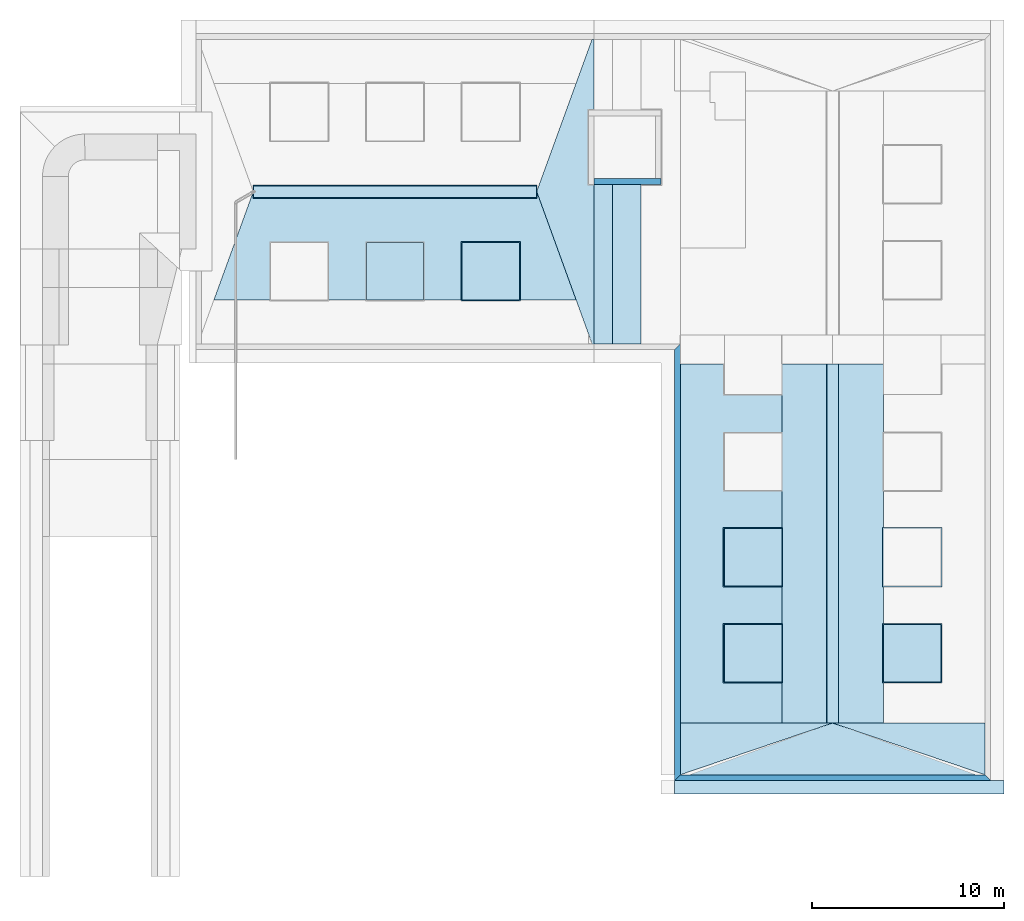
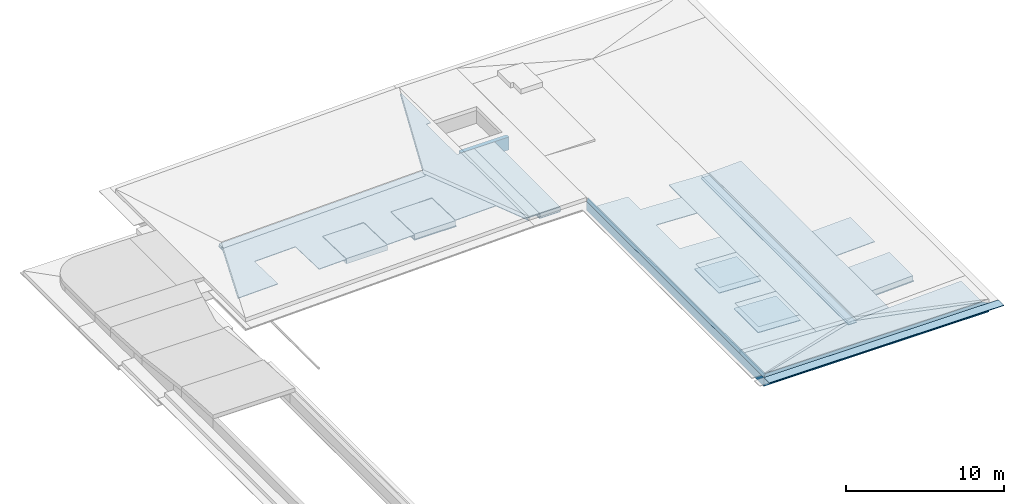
# One storey, part 2 of 8: 29 footings.
"""IFC4 building model written with IfcOpenShell, lengths in millimetres."""

from ifc_helpers import new_model, entity, si_unit, converted_unit, derived_unit, direction, frame, origin_with_axes, place, context, subcontext, project, spatial, polygons, material, type_object, element, save


model = new_model("IFC4")

# Units and contexts
model_context = context("Model", 3, precision=0.01, world=origin_with_axes(), true_north=direction((0.0, 1.0)))
body_context = subcontext(model_context, "Body", "Model", "MODEL_VIEW")
ifc_project = project(units=[si_unit("LENGTHUNIT", "METRE", prefix="MILLI"), si_unit("AREAUNIT", "SQUARE_METRE"), si_unit("VOLUMEUNIT", "CUBIC_METRE"), converted_unit("PLANEANGLEUNIT", "DEGREE", entity("IfcPlaneAngleMeasure", 0.0174532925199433), si_unit("PLANEANGLEUNIT", "RADIAN"), dimensions=[0, 0, 0, 0, 0, 0, 0]), converted_unit("TIMEUNIT", "Year", entity("IfcTimeMeasure", 31557600.0), si_unit("TIMEUNIT", "SECOND"), dimensions=[0, 0, 1, 0, 0, 0, 0]), si_unit("MASSUNIT", "GRAM", prefix="KILO"), si_unit("THERMODYNAMICTEMPERATUREUNIT", "DEGREE_CELSIUS"), si_unit("LUMINOUSINTENSITYUNIT", "LUMEN"), si_unit("ENERGYUNIT", "JOULE", prefix="MEGA"), derived_unit("THERMALCONDUCTANCEUNIT", [(si_unit("POWERUNIT", "WATT"), 1), (si_unit("LENGTHUNIT", "METRE"), -1), (si_unit("THERMODYNAMICTEMPERATUREUNIT", "KELVIN"), -1)]), derived_unit("SPECIFICHEATCAPACITYUNIT", [(si_unit("ENERGYUNIT", "JOULE"), 1), (si_unit("MASSUNIT", "GRAM", prefix="KILO"), -1), (si_unit("THERMODYNAMICTEMPERATUREUNIT", "KELVIN"), -1)]), derived_unit("MASSDENSITYUNIT", [(si_unit("MASSUNIT", "GRAM", prefix="KILO"), 1), (si_unit("VOLUMEUNIT", "CUBIC_METRE"), -1)])], contexts=[model_context])

# Site, building, storey
site_placement = place(None, origin_with_axes())
site = spatial("IfcSite", under=ifc_project, at=site_placement, Name="Gelände", CompositionType="ELEMENT")
building_placement = place(site_placement, origin_with_axes())
building = spatial("IfcBuilding", under=site, at=building_placement, Name="Gebäude", CompositionType="ELEMENT")
storey_placement = place(building_placement, frame((0.0, 0.0, -6000.0), z_axis=(0.0, 0.0, 1.0), x_axis=(1.0, 0.0, 0.0)))
storey = spatial("IfcBuildingStorey", under=building, at=storey_placement, Name="Fundation", CompositionType="ELEMENT", Elevation=-6000.0)

# Footings
ifc_material_1 = material(Name="Magerbeton")
footing_type_1 = type_object("IfcFootingType", Name="Magerbeton 50", PredefinedType="NOTDEFINED")
footing_1_placement = place(storey_placement, frame((14921.30440183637, 25536.3528107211, 2349.956716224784), z_axis=(0.0, 0.0, 1.0), x_axis=(0.7208330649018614, 0.6931087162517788, 0.0)))
element("IfcFooting", 1, at=footing_1_placement, inside=storey, type_object=footing_type_1, material=ifc_material_1, Name="Dach-008", PredefinedType="NOTDEFINED", context=body_context, shape_type="Tessellation", body=[
    polygons([(-16255.46413902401, 15630.25389093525, -600.4645993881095), (-14122.7827600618, 13579.59871885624, -515.1193859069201), (-12044.3503997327, 15741.16837359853, -605.0806949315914), (-9881.851126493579, 13661.84214933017, -518.542234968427), (-11960.28348682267, 11500.27249458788, -428.5809259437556), (-10518.61730466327, 10114.05501174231, -370.8886193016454), (-8440.234375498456, 12275.57325807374, -460.8477887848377), (-6277.735305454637, 10196.24722918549, -374.3093369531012), (-8356.11823461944, 8034.728982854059, -284.3501674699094), (-6914.452052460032, 6648.511500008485, -226.6578608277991), (-4827.779145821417, 8818.65132291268, -316.9758474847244), (-2665.2798725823, 6739.325098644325, -230.43738752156), (-4751.952779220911, 4569.185275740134, -140.1194008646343), (-2619.271400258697, 2518.530103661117, -54.77418738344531), (-179.3452857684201, 8026.199875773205, -283.995198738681), (-387.2779668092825, 7809.949887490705, -274.9951963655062), (-11055.60726775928, 18067.9588307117, -701.9182476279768), (-10847.67458671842, 18284.2088189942, -710.9182500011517), (-16255.46413941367, 15630.25389085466, -650.5078829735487), (-14122.78276031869, 13579.59871918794, -565.1626695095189), (-12044.35039965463, 15741.16837327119, -655.1239785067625), (-9881.851126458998, 13661.84214937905, -568.5855185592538), (-11960.28348712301, 11500.27249436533, -478.6242095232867), (-10518.61730499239, 10114.05501177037, -420.9319028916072), (-8440.234375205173, 12275.57325850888, -510.8910723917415), (-6277.735305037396, 10196.24722909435, -424.3526205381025), (-8356.11823482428, 8034.728983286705, -334.3934510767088), (-6914.452052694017, 6648.511499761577, -276.7011444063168), (-4827.779145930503, 8818.651322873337, -367.0191310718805), (-2665.27987273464, 6739.325098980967, -280.4806711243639), (-4751.952779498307, 4569.185275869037, -190.1626844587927), (-2619.271400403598, 2518.530103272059, -104.8174709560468), (-179.3452855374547, 8026.199876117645, -334.0384823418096), (-387.2779663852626, 7809.949887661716, -325.038479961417), (-11055.60726767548, 18067.95883026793, -751.9615311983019), (-10847.67458683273, 18284.20881871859, -760.9615335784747)], [[[1, 2, 3, 4, 5, 6, 7, 8, 9, 10, 11, 12, 13, 14, 15, 16, 17, 18]], [[2, 1, 19, 20]], [[3, 2, 20, 21]], [[4, 3, 21, 22]], [[5, 4, 22, 23]], [[6, 5, 23, 24]], [[7, 6, 24, 25]], [[8, 7, 25, 26]], [[9, 8, 26, 27]], [[10, 9, 27, 28]], [[11, 10, 28, 29]], [[12, 11, 29, 30]], [[13, 12, 30, 31]], [[14, 13, 31, 32]], [[15, 14, 32, 33]], [[16, 15, 33, 34]], [[17, 16, 34, 35]], [[18, 17, 35, 36]], [[1, 18, 36, 19]], [[20, 19, 36, 35, 34, 33, 32, 31, 30, 29, 28, 27, 26, 25, 24, 23, 22, 21]]], closed=True),
])
footing_2_placement = place(storey_placement, frame((12228.99744477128, 39147.59725747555, 2349.691005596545), z_axis=(0.0, 0.0, 1.0), x_axis=(0.0, -1.0, 0.0)))
element("IfcFooting", 2, at=footing_2_placement, inside=storey, type_object=footing_type_1, material=ifc_material_1, Name="Dach-009", PredefinedType="NOTDEFINED", context=body_context, shape_type="Tessellation", body=[
    polygons([(16200.0001721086, 0.0001391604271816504, 50.30900989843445), (7574.999976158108, 0.0001391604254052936, 50.30900989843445), (7574.999976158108, -299.9999999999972, 16.90514666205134), (3699.999976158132, -299.9999999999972, 16.90514666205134), (3699.999976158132, 0.0001391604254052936, 50.30900989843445), (0.0, 0.0001391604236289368, 50.30900989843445), (0.0, -109.0909856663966, 38.16213215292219), (7950.000030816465, -3000.000000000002, -283.7294830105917), (16200.00017249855, 0.000139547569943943, 1.572550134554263e-05), (7574.999975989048, 0.000139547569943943, 1.572550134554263e-05), (7574.999975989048, -299.9999997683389, -33.40384752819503), (3699.999975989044, -299.9999997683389, -33.40384752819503), (3699.999975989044, 0.000139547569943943, 1.572550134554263e-05), (1.716671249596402e-08, 0.000139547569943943, 1.572550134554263e-05), (1.716671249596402e-08, -109.0909853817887, -12.14686203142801), (7950.000030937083, -3000.000000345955, -334.0384772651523)], [[[1, 2, 3, 4, 5, 6, 7, 8]], [[2, 1, 9, 10]], [[3, 2, 10, 11]], [[4, 3, 11, 12]], [[5, 4, 12, 13]], [[6, 5, 13, 14]], [[7, 6, 14, 15]], [[8, 7, 15, 16]], [[1, 8, 16, 9]], [[10, 9, 16, 15, 14, 13, 12, 11]]], closed=True),
])
footing_3_placement = place(storey_placement, frame((24662.95106161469, 22197.59728131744, 2019.078256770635), z_axis=(0.0, 0.0, 1.0), x_axis=(0.0, 1.0, 0.0)))
element("IfcFooting", 3, at=footing_3_placement, inside=storey, type_object=footing_type_1, material=ifc_material_1, Name="Dach-009", PredefinedType="NOTDEFINED", context=body_context, shape_type="Tessellation", body=[
    polygons([(0.0, -316.0479770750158, 62.68190309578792), (-18750.00000000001, -316.0479770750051, 62.68190309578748), (-18750.00000000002, -2667.193634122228, 156.7277293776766), (0.0, -2667.193702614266, 156.7277321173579), (-3.895337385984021e-07, -316.047976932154, 12.64191926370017), (-18750.00000038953, -316.047976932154, 12.64191926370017), (-18750.00000038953, -2667.193634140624, 106.6877455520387), (-3.895337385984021e-07, -2667.193703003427, 106.6877483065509)], [[[1, 2, 3, 4]], [[2, 1, 5, 6]], [[3, 2, 6, 7]], [[4, 3, 7, 8]], [[1, 4, 8, 5]], [[6, 5, 8, 7]]], closed=True),
])
footing_4_placement = place(storey_placement, frame((24678.99903868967, 20076.41671686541, 2019.720048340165), z_axis=(0.0, 0.0, 1.0), x_axis=(0.0, -1.0, 0.0)))
element("IfcFooting", 4, at=footing_4_placement, inside=storey, type_object=footing_type_1, material=ifc_material_1, Name="Dach-009", PredefinedType="NOTDEFINED", context=body_context, shape_type="Tessellation", body=[
    polygons([(-2121.180564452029, -2651.197942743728, 156.0879017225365), (11478.8195473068, -2651.197942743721, 156.0879017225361), (11478.8195473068, -2653.196344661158, 156.1678377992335), (14478.8195473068, -2653.196344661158, 156.1678377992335), (14478.8195473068, -2651.197942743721, 156.0879017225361), (16628.81943554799, -2651.197942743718, 156.0879017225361), (16628.81943554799, -299.9999999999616, 62.03998401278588), (-2121.180564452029, -299.9999999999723, 62.03998401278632), (-2121.180564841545, -2651.197942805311, 106.0479178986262), (11478.81954747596, -2651.197942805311, 106.0479178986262), (11478.81954747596, -2653.196345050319, 106.1278539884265), (14478.81954747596, -2653.196345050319, 106.1278539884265), (14478.81954747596, -2651.197942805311, 106.0479178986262), (16628.81943515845, -2651.197942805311, 106.0479178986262), (16628.81943515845, -300.0000001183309, 12.00000019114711), (-2121.180564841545, -300.0000001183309, 12.00000019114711)], [[[1, 2, 3, 4, 5, 6, 7, 8]], [[2, 1, 9, 10]], [[3, 2, 10, 11]], [[4, 3, 11, 12]], [[5, 4, 12, 13]], [[6, 5, 13, 14]], [[7, 6, 14, 15]], [[8, 7, 15, 16]], [[1, 8, 16, 9]], [[10, 9, 16, 15, 14, 13, 12, 11]]], closed=True),
])
footing_5_placement = place(storey_placement, frame((32928.9974447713, 447.5972813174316, 2370.414046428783), z_axis=(0.0, 0.0, 1.0), x_axis=(-1.0, 0.0, 0.0)))
element("IfcFooting", 5, at=footing_5_placement, inside=storey, type_object=footing_type_1, material=ifc_material_1, Name="Dach-009", PredefinedType="NOTDEFINED", context=body_context, shape_type="Tessellation", body=[
    polygons([(8250.000000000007, -2999.999999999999, -300.6540140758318), (16200.00068824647, -299.9999999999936, 15.24154558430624), (300.1233427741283, -300.0000000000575, 15.24154558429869), (8250.00000020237, -3000.000000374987, -350.99506614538), (16200.00068863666, -299.999999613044, -35.09950639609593), (300.1233425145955, -299.9999996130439, -35.09950639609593)], [[[1, 2, 3]], [[2, 1, 4, 5]], [[3, 2, 5, 6]], [[1, 3, 6, 4]], [[5, 4, 6]]], closed=True),
])
footing_6_placement = place(storey_placement, frame((24678.99744477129, 447.5972813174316, 2019.720048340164), z_axis=(0.0, 0.0, 1.0), x_axis=(0.0, 1.0, 0.0)))
element("IfcFooting", 6, at=footing_6_placement, inside=storey, type_object=footing_type_1, material=ifc_material_1, Name="Dach-009", PredefinedType="NOTDEFINED", context=body_context, shape_type="Tessellation", body=[
    polygons([(299.9581633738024, -7949.999840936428, 368.0399776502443), (2999.999999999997, -7950.123185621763, 368.0449114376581), (3000.0, 0.0, 50.03998401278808), (299.9581629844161, -7949.999840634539, 317.999993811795), (3000.000000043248, -7950.123186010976, 318.0049276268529), (3000.000000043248, -1.21666232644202e-07, 1.912803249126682e-07)], [[[1, 2, 3]], [[2, 1, 4, 5]], [[3, 2, 5, 6]], [[1, 3, 6, 4]], [[5, 4, 6]]], closed=True),
])
footing_7_placement = place(storey_placement, frame((5278.997492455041, 25486.5315427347, 1716.595820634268), z_axis=(0.0, 0.0, 1.0), x_axis=(1.0, 0.0, 0.0)))
element("IfcFooting", 7, at=footing_7_placement, inside=storey, type_object=footing_type_1, material=ifc_material_1, Name="Dach-009", PredefinedType="NOTDEFINED", context=body_context, shape_type="Tessellation", body=[
    polygons([(0.0, 3097.52429106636, -40.8622058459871), (0.0, 0.0, 50.02151737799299), (3100.000000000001, 0.0, 50.02151737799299), (3100.000000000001, 3097.52429106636, -40.8622058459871), (-3.895159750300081e-07, 3097.524290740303, -90.88372302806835), (-3.895159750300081e-07, -3.894200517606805e-07, 1.977706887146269e-07), (3100.000000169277, -3.894200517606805e-07, 1.977706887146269e-07), (3100.000000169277, 3097.524290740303, -90.88372302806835)], [[[1, 2, 3, 4]], [[2, 1, 5, 6]], [[3, 2, 6, 7]], [[4, 3, 7, 8]], [[1, 4, 8, 5]], [[6, 5, 8, 7]]], closed=True),
])
footing_8_placement = place(storey_placement, frame((18964.23958879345, 13647.5972813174, 1872.231201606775), z_axis=(0.0, 0.0, 1.0), x_axis=(0.0, -1.0, 0.0)))
element("IfcFooting", 8, at=footing_8_placement, inside=storey, type_object=footing_type_1, material=ifc_material_1, Name="Dach-009", PredefinedType="NOTDEFINED", context=body_context, shape_type="Tessellation", body=[
    polygons([(0.0, 3107.516304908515, -74.22755005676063), (0.0, 0.0, 50.03996270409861), (3100.0, 0.0, 50.03996270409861), (3100.0, 3107.516304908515, -74.22755005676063), (-3.895159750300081e-07, 3107.516304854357, -124.2675125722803), (-3.895159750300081e-07, -3.891571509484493e-07, 2.01976213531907e-07), (3100.000000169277, -3.891571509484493e-07, 2.01976213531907e-07), (3100.000000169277, 3107.516304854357, -124.2675125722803)], [[[1, 2, 3, 4]], [[2, 1, 5, 6]], [[3, 2, 6, 7]], [[4, 3, 7, 8]], [[1, 4, 8, 5]], [[6, 5, 8, 7]]], closed=True),
])
footing_9_placement = place(storey_placement, frame((18964.11839653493, 8647.597281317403, 1847.61895301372), z_axis=(0.0, 0.0, 1.0), x_axis=(0.0, -1.0, 0.0)))
element("IfcFooting", 9, at=footing_9_placement, inside=storey, type_object=footing_type_1, material=ifc_material_1, Name="Dach-009", PredefinedType="NOTDEFINED", context=body_context, shape_type="Tessellation", body=[
    polygons([(0.0, 3107.516304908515, -74.22755005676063), (0.0, 0.0, 50.03996270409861), (3100.0, 0.0, 50.03996270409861), (3100.0, 3107.516304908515, -74.22755005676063), (-3.895159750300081e-07, 3107.516304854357, -124.2675125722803), (-3.895159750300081e-07, -3.891607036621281e-07, 2.019753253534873e-07), (3100.000000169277, -3.891607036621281e-07, 2.019753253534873e-07), (3100.000000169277, 3107.516304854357, -124.2675125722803)], [[[1, 2, 3, 4]], [[2, 1, 5, 6]], [[3, 2, 6, 7]], [[4, 3, 7, 8]], [[1, 4, 8, 5]], [[6, 5, 8, 7]]], closed=True),
])
footing_10_placement = place(storey_placement, frame((30393.87967575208, 5547.597281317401, 1847.619080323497), z_axis=(0.0, 0.0, 1.0), x_axis=(0.0, 1.0, 0.0)))
element("IfcFooting", 10, at=footing_10_placement, inside=storey, type_object=footing_type_1, material=ifc_material_1, Name="Dach-009", PredefinedType="NOTDEFINED", context=body_context, shape_type="Tessellation", body=[
    polygons([(0.0, 0.0, 50.03996270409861), (3099.999999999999, 0.0, 50.03996270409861), (3099.999999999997, 3097.524291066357, -73.82797606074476), (0.0, 3097.52429106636, -73.82797606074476), (-3.895168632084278e-07, -3.891642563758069e-07, 2.01976213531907e-07), (3100.000000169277, -3.891642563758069e-07, 2.01976213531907e-07), (3100.000000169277, 3097.524291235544, -123.867938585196), (-3.895168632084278e-07, 3097.524291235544, -123.867938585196)], [[[1, 2, 3, 4]], [[2, 1, 5, 6]], [[3, 2, 6, 7]], [[4, 3, 7, 8]], [[1, 4, 8, 5]], [[6, 5, 8, 7]]], closed=True),
])
footing_11_placement = place(storey_placement, frame((30393.75530074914, 10547.5972813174, 1872.231201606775), z_axis=(0.0, 0.0, 1.0), x_axis=(0.0, 1.0, 0.0)))
element("IfcFooting", 11, at=footing_11_placement, inside=storey, type_object=footing_type_1, material=ifc_material_1, Name="Dach-009", PredefinedType="NOTDEFINED", context=body_context, shape_type="Tessellation", body=[
    polygons([(0.0, 0.0, 50.03996270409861), (3099.999999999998, 0.0, 50.03996270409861), (3099.999999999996, 3097.524291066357, -73.82797606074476), (0.0, 3097.524291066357, -73.82797606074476), (-3.895159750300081e-07, -3.891642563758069e-07, 2.019753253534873e-07), (3100.000000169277, -3.891642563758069e-07, 2.019753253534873e-07), (3100.000000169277, 3097.524291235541, -123.867938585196), (-3.895159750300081e-07, 3097.524291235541, -123.867938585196)], [[[1, 2, 3, 4]], [[2, 1, 5, 6]], [[3, 2, 6, 7]], [[4, 3, 7, 8]], [[1, 4, 8, 5]], [[6, 5, 8, 7]]], closed=True),
])
footing_12_placement = place(storey_placement, frame((24368.9990386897, 3447.597281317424, 1830.452000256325), z_axis=(0.0, 0.0, 1.0), x_axis=(1.0, 0.0, 0.0)))
element("IfcFooting", 12, at=footing_12_placement, inside=storey, type_object=footing_type_1, material=ifc_material_1, Name="Deckennr.-074", PredefinedType="NOTDEFINED", context=body_context, shape_type="Tessellation", body=[
    polygons([(619.9999999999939, 0.0, 49.99999999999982), (0.0, 0.0, 49.99999999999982), (0.0, 0.0, 0.0), (619.9999999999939, 0.0, 0.0), (619.9999999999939, 18750.00000000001, 49.99999999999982), (0.0, 18750.00000000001, 49.99999999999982), (0.0, 18750.00000000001, 0.0), (619.9999999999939, 18750.00000000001, 0.0)], [[[1, 2, 3, 4]], [[5, 6, 2, 1]], [[2, 6, 7, 3]], [[8, 4, 3, 7]], [[5, 1, 4, 8]], [[6, 5, 8, 7]]], closed=True),
])
footing_13_placement = place(storey_placement, frame((-5584.058279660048, 31547.59725747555, 1388.447285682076), z_axis=(0.0, 0.0, 1.0), x_axis=(0.0, -1.0, 0.0)))
element("IfcFooting", 13, at=footing_13_placement, inside=storey, type_object=footing_type_1, material=ifc_material_1, Name="Dach-009", PredefinedType="NOTDEFINED", context=body_context, shape_type="Tessellation", body=[
    polygons([(700.0000000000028, 14820.25936470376, 477.4997178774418), (0.0, 14820.25936470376, 477.4997178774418), (0.0, 0.0, 50.02079541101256), (700.0000000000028, 0.0, 50.02079541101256), (700.0000003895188, 14820.25936509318, 427.4789226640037), (2.032543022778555e-07, 14820.25936509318, 427.4789226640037), (2.032543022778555e-07, 3.45536044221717e-07, 1.963087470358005e-07), (700.0000003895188, 3.45536044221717e-07, 1.963087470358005e-07)], [[[1, 2, 3, 4]], [[2, 1, 5, 6]], [[3, 2, 6, 7]], [[4, 3, 7, 8]], [[1, 4, 8, 5]], [[6, 5, 8, 7]]], closed=True),
])
footing_14_placement = place(storey_placement, frame((13178.99744477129, 23247.5973051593, 2000.0), z_axis=(0.0, 0.0, 1.0), x_axis=(1.0, 0.0, 0.0)))
element("IfcFooting", 14, at=footing_14_placement, inside=storey, type_object=footing_type_1, material=ifc_material_1, Name="Deckennr.-073", PredefinedType="NOTDEFINED", context=body_context, shape_type="Tessellation", body=[
    polygons([(1499.999999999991, 0.0, 49.99999999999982), (0.0, 0.0, 49.99999999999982), (0.0, 0.0, 0.0), (1499.999999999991, 0.0, 0.0), (1499.999999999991, 8324.999976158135, 49.99999999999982), (0.0, 8324.999976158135, 49.99999999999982), (0.0, 8324.999976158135, 0.0), (1499.999999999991, 8324.999976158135, 0.0)], [[[1, 2, 3, 4]], [[5, 6, 2, 1]], [[2, 6, 7, 3]], [[8, 4, 3, 7]], [[5, 1, 4, 8]], [[6, 5, 8, 7]]], closed=True),
])
footing_15_placement = place(storey_placement, frame((24678.9467959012, 36447.59728131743, 2019.718086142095), z_axis=(0.0, 0.0, 1.0), x_axis=(0.0, -1.0, 0.0)))
element("IfcFooting", 15, at=footing_15_placement, inside=storey, type_object=footing_type_1, material=ifc_material_1, Name="Dach-009", PredefinedType="NOTDEFINED", context=body_context, shape_type="Tessellation", body=[
    polygons([(14249.99999999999, -7949.999999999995, 368.0399840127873), (33000.00000000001, -7949.999999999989, 368.0399840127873), (33000.0, -2651.147250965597, 156.0858740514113), (30850.00011175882, -2651.147250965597, 156.0858740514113), (30850.00011175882, -5648.751403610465, 275.9900401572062), (27850.00011175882, -5648.751403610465, 275.9900401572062), (27850.00011175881, -2651.14569995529, 156.0858120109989), (25850.00011175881, -2651.145699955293, 156.0858120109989), (25850.00011175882, -5648.802052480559, 275.9920661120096), (22850.00011175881, -5648.802052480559, 275.9920661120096), (22850.00011175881, -2651.14569995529, 156.0858120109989), (20850.00011175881, -2651.14569995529, 156.0858120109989), (20850.00011175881, -5648.802052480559, 275.9920661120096), (17850.00011175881, -5648.802052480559, 275.9920661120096), (17850.0001117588, -2651.145699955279, 156.0858120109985), (15850.00011175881, -2651.145699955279, 156.0858120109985), (15850.00011175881, -5648.802052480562, 275.9920661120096), (14249.99999999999, -5648.802052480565, 275.9920661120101), (14249.99999961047, -7950.000000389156, 318.0000002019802), (32999.99999961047, -7950.000000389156, 318.0000002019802), (32999.99999961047, -2651.147250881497, 106.0458902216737), (30850.00011192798, -2651.147250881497, 106.0458902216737), (30850.00011192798, -5648.751403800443, 225.9500563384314), (27850.00011192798, -5648.751403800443, 225.9500563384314), (27850.00011192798, -2651.145699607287, 106.0458281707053), (25850.00011192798, -2651.145699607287, 106.0458281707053), (25850.00011192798, -5648.802052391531, 225.9520822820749), (22850.00011192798, -5648.802052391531, 225.9520822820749), (22850.00011192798, -2651.145699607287, 106.0458281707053), (20850.00011192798, -2651.145699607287, 106.0458281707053), (20850.00011192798, -5648.802052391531, 225.9520822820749), (17850.00011192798, -5648.802052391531, 225.9520822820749), (17850.00011192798, -2651.145699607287, 106.0458281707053), (15850.00011192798, -2651.145699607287, 106.0458281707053), (15850.00011192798, -5648.802052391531, 225.9520822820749), (14249.99999961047, -5648.802052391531, 225.9520822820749)], [[[1, 2, 3, 4, 5, 6, 7, 8, 9, 10, 11, 12, 13, 14, 15, 16, 17, 18]], [[2, 1, 19, 20]], [[3, 2, 20, 21]], [[4, 3, 21, 22]], [[5, 4, 22, 23]], [[6, 5, 23, 24]], [[7, 6, 24, 25]], [[8, 7, 25, 26]], [[9, 8, 26, 27]], [[10, 9, 27, 28]], [[11, 10, 28, 29]], [[12, 11, 29, 30]], [[13, 12, 30, 31]], [[14, 13, 31, 32]], [[15, 14, 32, 33]], [[16, 15, 33, 34]], [[17, 16, 34, 35]], [[18, 17, 35, 36]], [[1, 18, 36, 19]], [[20, 19, 36, 35, 34, 33, 32, 31, 30, 29, 28, 27, 26, 25, 24, 23, 22, 21]]], closed=True),
])
footing_16_placement = place(storey_placement, frame((24678.9974447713, 3447.597281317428, 2019.720048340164), z_axis=(0.0, 0.0, 1.0), x_axis=(0.0, -1.0, 0.0)))
element("IfcFooting", 16, at=footing_16_placement, inside=storey, type_object=footing_type_1, material=ifc_material_1, Name="Dach-009", PredefinedType="NOTDEFINED", context=body_context, shape_type="Tessellation", body=[
    polygons([(2700.039141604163, -7949.991905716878, 368.0396602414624), (0.0, 0.0, 50.03998401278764), (0.0, -7950.115250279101, 368.0445940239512), (2700.039141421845, -7949.99190529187, 317.9996763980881), (-3.895199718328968e-07, 1.790922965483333e-07, 1.792495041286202e-07), (-3.895195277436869e-07, -7950.115250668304, 318.0046102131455)], [[[1, 2, 3]], [[2, 1, 4, 5]], [[3, 2, 5, 6]], [[1, 3, 6, 4]], [[5, 4, 6]]], closed=True),
])
footing_type_2 = type_object("IfcFootingType", Name="Magerbeton 50", PredefinedType="NOTDEFINED")
footing_17_placement = place(storey_placement, frame((16428.99744477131, -252.4045176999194, 2400.0), z_axis=(0.0, 0.0, 1.0), x_axis=(1.0, 0.0, 0.0)))
element("IfcFooting", 17, at=footing_17_placement, inside=storey, type_object=footing_type_2, material=ifc_material_1, Name="Deckennr.-072", PredefinedType="NOTDEFINED", context=body_context, shape_type="Tessellation", body=[
    polygons([(17199.90052589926, 0.0, 0.0), (0.0, 0.0, 0.0), (0.0, 0.0, -49.99999999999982), (17199.90052589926, 0.0, -49.99999999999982), (17199.90052589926, 700.0, 0.0), (0.0, 700.0, 0.0), (0.0, 700.0, -49.99999999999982), (17199.90052589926, 700.0, -49.99999999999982)], [[[1, 2, 3, 4]], [[5, 6, 2, 1]], [[2, 6, 7, 3]], [[8, 4, 3, 7]], [[5, 1, 4, 8]], [[6, 5, 8, 7]]], closed=True),
])
footing_18_placement = place(storey_placement, frame((13178.99738852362, 31572.59728131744, 2400.0), z_axis=(0.0, 0.0, 1.0), x_axis=(1.0, 0.0, 0.0)))
element("IfcFooting", 18, at=footing_18_placement, inside=storey, type_object=footing_type_2, material=ifc_material_1, Name="Deckennr.-071", PredefinedType="NOTDEFINED", context=body_context, shape_type="Tessellation", body=[
    polygons([(0.0, 0.0, 0.0), (0.0, 0.0, -49.99999999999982), (-949.9999437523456, 0.0, -49.99999999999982), (-949.9999437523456, 0.0, 0.0), (0.0, -8324.999976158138, 0.0), (0.0, -8324.999976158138, -49.99999999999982), (-949.9999437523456, -8324.999976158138, -49.99999999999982), (-949.9999437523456, -8324.999976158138, 0.0)], [[[1, 2, 3, 4]], [[5, 6, 2, 1]], [[3, 2, 6, 7]], [[4, 3, 7, 8]], [[5, 1, 4, 8]], [[8, 7, 6, 5]]], closed=True),
])
ifc_material_2 = material(Name="Beton bewehrt")
footing_type_3 = type_object("IfcFootingType", Name="Beton bewehrt 300 x 700", PredefinedType="NOTDEFINED")
footing_19_placement = place(storey_placement, frame((16428.9974447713, 22947.5973051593, 2399.999999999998), z_axis=(0.0, 0.0, 1.0), x_axis=(-1.0, 0.0, 0.0)))
element("IfcFooting", 19, at=footing_19_placement, inside=storey, type_object=footing_type_3, material=ifc_material_2, Name="Unterzug-026", PredefinedType="NOTDEFINED", context=body_context, shape_type="Tessellation", body=[
    polygons([(-300.0000000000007, -299.9999999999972, -699.9999999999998), (-300.0000000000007, 22200.00002384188, -699.9999999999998), (0.0, 22500.00002384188, -699.9999999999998), (0.0, 0.0, -699.9999999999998), (-300.0000000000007, -299.9999999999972, 0.0), (-300.0000000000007, 22200.00002384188, 0.0), (0.0, 22500.00002384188, 0.0), (0.0, 0.0, 0.0)], [[[1, 2, 3, 4]], [[5, 6, 2, 1]], [[3, 2, 6, 7]], [[4, 3, 7, 8]], [[5, 1, 4, 8]], [[8, 7, 6, 5]]], closed=True),
])
footing_20_placement = place(storey_placement, frame((32928.99744477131, 447.5972813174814, 2399.999999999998), z_axis=(0.0, 0.0, 1.0), x_axis=(0.0, 1.0, 0.0)))
element("IfcFooting", 20, at=footing_20_placement, inside=storey, type_object=footing_type_3, material=ifc_material_2, Name="Unterzug-026", PredefinedType="NOTDEFINED", context=body_context, shape_type="Tessellation", body=[
    polygons([(299.9999999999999, 299.9999999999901, 0.0), (300.0, 16200.0, 0.0), (0.0, 16500.00000000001, 0.0), (0.0, 0.0, 0.0), (299.9999999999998, 299.9999999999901, -700.0000000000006), (299.9999999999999, 16200.0, -700.0000000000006), (0.0, 16500.00000000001, -699.9999999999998), (0.0, 0.0, -699.9999999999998)], [[[1, 2, 3, 4]], [[5, 6, 2, 1]], [[3, 2, 6, 7]], [[4, 3, 7, 8]], [[5, 1, 4, 8]], [[8, 7, 6, 5]]], closed=True),
])
footing_type_4 = type_object("IfcFootingType", Name="Beton bewehrt 3000 x 3000", PredefinedType="NOTDEFINED")
footing_21_placement = place(storey_placement, frame((1828.997492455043, 27035.6366606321, 1576.930056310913), z_axis=(0.0, 0.0, 1.0), x_axis=(1.0, 0.0, 0.0)))
element("IfcFooting", 21, at=footing_21_placement, inside=storey, type_object=footing_type_4, material=ifc_material_2, Name="Stütze-015", PredefinedType="NOTDEFINED", context=body_context, shape_type="Tessellation", body=[
    polygons([(1500.0, 1511.087207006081, 356.0240048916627), (1500.0, 1499.355232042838, -43.97599510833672), (-1500.0, 1499.355232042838, -43.97599510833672), (-1500.0, 1511.087207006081, 356.0240048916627), (1500.0, -1487.623257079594, 443.9759951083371), (1500.0, -1499.355232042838, 43.97599510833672), (-1500.0, -1499.355232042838, 43.97599510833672), (-1500.0, -1487.623257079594, 443.9759951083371)], [[[1, 2, 3, 4]], [[5, 6, 2, 1]], [[3, 2, 6, 7]], [[4, 3, 7, 8]], [[5, 1, 4, 8]], [[8, 7, 6, 5]]], closed=True),
])
footing_22_placement = place(storey_placement, frame((20513.00173432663, 12097.5972813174, 1835.757941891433), z_axis=(0.0, 0.0, 1.0), x_axis=(0.0, -1.0, 0.0)))
element("IfcFooting", 22, at=footing_22_placement, inside=storey, type_object=footing_type_4, material=ifc_material_2, Name="Stütze-015", PredefinedType="NOTDEFINED", context=body_context, shape_type="Tessellation", body=[
    polygons([(-1500.0, -1482.806342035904, 459.9360994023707), (-1500.0, -1498.802076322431, 59.93609940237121), (1500.0, -1498.802076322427, 59.93609940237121), (1500.0, -1482.8063420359, 459.9360994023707), (-1500.0, 1514.797810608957, 340.0639005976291), (-1500.0, 1498.802076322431, -59.93609940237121), (1500.0, 1498.802076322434, -59.93609940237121), (1500.0, 1514.797810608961, 340.0639005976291)], [[[1, 2, 3, 4]], [[5, 6, 2, 1]], [[3, 2, 6, 7]], [[4, 3, 7, 8]], [[5, 1, 4, 8]], [[8, 7, 6, 5]]], closed=True),
])
footing_23_placement = place(storey_placement, frame((20513.05556594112, 7097.597281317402, 1835.757941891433), z_axis=(0.0, 0.0, 1.0), x_axis=(0.0, -1.0, 0.0)))
element("IfcFooting", 23, at=footing_23_placement, inside=storey, type_object=footing_type_4, material=ifc_material_2, Name="Stütze-015", PredefinedType="NOTDEFINED", context=body_context, shape_type="Tessellation", body=[
    polygons([(-1500.0, -1482.806342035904, 459.9360994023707), (-1500.0, -1498.802076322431, 59.93609940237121), (1500.000000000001, -1498.802076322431, 59.93609940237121), (1500.000000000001, -1482.806342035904, 459.9360994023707), (-1500.0, 1514.797810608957, 340.0639005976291), (-1500.0, 1498.802076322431, -59.93609940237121), (1500.0, 1498.802076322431, -59.93609940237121), (1500.0, 1514.797810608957, 340.0639005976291)], [[[1, 2, 3, 4]], [[5, 6, 2, 1]], [[3, 2, 6, 7]], [[4, 3, 7, 8]], [[5, 1, 4, 8]], [[8, 7, 6, 5]]], closed=True),
])
footing_24_placement = place(storey_placement, frame((28844.94250634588, 7097.597281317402, 1835.75806920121), z_axis=(0.0, 0.0, 1.0), x_axis=(0.0, 1.0, 0.0)))
element("IfcFooting", 24, at=footing_24_placement, inside=storey, type_object=footing_type_4, material=ifc_material_2, Name="Stütze-015", PredefinedType="NOTDEFINED", context=body_context, shape_type="Tessellation", body=[
    polygons([(1500.0, 1514.797810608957, 340.0639005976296), (1500.0, 1498.802076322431, -59.93609940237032), (-1500.0, 1498.802076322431, -59.93609940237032), (-1500.0, 1514.797810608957, 340.0639005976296), (1500.0, -1482.806342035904, 459.936099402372), (1500.0, -1498.802076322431, 59.9360994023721), (-1500.0, -1498.802076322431, 59.9360994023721), (-1500.0, -1482.806342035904, 459.936099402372)], [[[1, 2, 3, 4]], [[5, 6, 2, 1]], [[3, 2, 6, 7]], [[4, 3, 7, 8]], [[5, 1, 4, 8]], [[8, 7, 6, 5]]], closed=True),
])
footing_25_placement = place(storey_placement, frame((6828.997492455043, 27035.6366606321, 1722.641342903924), z_axis=(0.0, 0.0, 1.0), x_axis=(1.0, 0.0, 0.0)))
element("IfcFooting", 25, at=footing_25_placement, inside=storey, type_object=footing_type_4, material=ifc_material_2, Name="Stütze-015", PredefinedType="NOTDEFINED", context=body_context, shape_type="Tessellation", body=[
    polygons([(1500.000000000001, 1511.087207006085, 356.0240048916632), (1500.000000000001, 1499.355232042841, -43.97599510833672), (-1500.0, 1499.355232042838, -43.97599510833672), (-1500.0, 1511.087207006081, 356.0240048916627), (1499.999999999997, -1487.623257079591, 443.9759951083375), (1499.999999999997, -1499.355232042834, 43.97599510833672), (-1500.000000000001, -1499.355232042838, 43.97599510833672), (-1500.000000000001, -1487.623257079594, 443.9759951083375)], [[[1, 2, 3, 4]], [[5, 6, 2, 1]], [[3, 2, 6, 7]], [[4, 3, 7, 8]], [[5, 1, 4, 8]], [[8, 7, 6, 5]]], closed=True),
])
footing_type_5 = type_object("IfcFootingType", Name="Beton bewehrt 300", PredefinedType="NOTDEFINED")
footing_26_placement = place(storey_placement, frame((11928.99744477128, 31572.59728131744, 1400.0), z_axis=(0.0, 0.0, 1.0), x_axis=(1.0, 0.0, 0.0)))
element("IfcFooting", 26, at=footing_26_placement, inside=storey, type_object=footing_type_5, material=ifc_material_2, Name="Wand-010", PredefinedType="NOTDEFINED", context=body_context, shape_type="Tessellation", body=[
    polygons([(3799.999894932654, 300.0000000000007, 0.0), (3799.999894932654, 0.0, 0.0), (300.0000000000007, 0.0, 0.0), (300.0000000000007, 300.0000000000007, 0.0), (3799.999894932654, 300.0000000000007, 999.9999999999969), (3799.999894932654, 0.0, 999.9999999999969), (300.0000000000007, 0.0, 999.9999999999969), (300.0000000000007, 300.0000000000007, 999.9999999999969)], [[[1, 2, 3, 4]], [[2, 1, 5, 6]], [[2, 6, 7, 3]], [[8, 4, 3, 7]], [[5, 1, 4, 8]], [[6, 5, 8, 7]]], closed=True),
])
footing_type_6 = type_object("IfcFootingType", Name="Beton bewehrt 600 x 200", PredefinedType="NOTDEFINED")
footing_27_placement = place(storey_placement, frame((24678.99903868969, 22197.59728131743, 2080.452000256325), z_axis=(0.0, 0.0, 1.0), x_axis=(-1.0, 0.0, 0.0)))
element("IfcFooting", 27, at=footing_27_placement, inside=storey, type_object=footing_type_6, material=ifc_material_2, Name="Unterzug-024", PredefinedType="NOTDEFINED", context=body_context, shape_type="Tessellation", body=[
    polygons([(300.0000000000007, 0.0, 0.0), (299.9999999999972, 18750.00000000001, 0.0), (-300.0000000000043, 18750.00000000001, 0.0), (-300.0000000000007, 0.0, 0.0), (300.0000000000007, 0.0, -199.9999999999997), (299.9999999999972, 18750.00000000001, -199.9999999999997), (-300.0000000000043, 18750.00000000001, -199.9999999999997), (-300.0000000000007, 0.0, -199.9999999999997)], [[[1, 2, 3, 4]], [[5, 6, 2, 1]], [[3, 2, 6, 7]], [[4, 3, 7, 8]], [[5, 1, 4, 8]], [[8, 7, 6, 5]]], closed=True),
])
footing_28_placement = place(storey_placement, frame((-5571.002459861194, 31197.59725747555, 1638.961679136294), z_axis=(0.0, 0.0, 1.0), x_axis=(0.0, -1.0, 0.0)))
element("IfcFooting", 28, at=footing_28_placement, inside=storey, type_object=footing_type_6, material=ifc_material_2, Name="Unterzug-024", PredefinedType="NOTDEFINED", context=body_context, shape_type="Tessellation", body=[
    polygons([(300.0000000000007, 0.0, 0.0), (300.0000000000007, 14799.99989831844, 426.9230507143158), (-300.0000000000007, 14799.99989831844, 426.9230507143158), (-300.0000000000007, 0.0, 0.0), (300.0000000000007, 0.0, -200.0831927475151), (300.0000000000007, 14799.99989831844, 226.8398579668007), (-300.0000000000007, 14799.99989831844, 226.8398579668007), (-300.0000000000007, 0.0, -200.0831927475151)], [[[1, 2, 3, 4]], [[5, 6, 2, 1]], [[3, 2, 6, 7]], [[4, 3, 7, 8]], [[5, 1, 4, 8]], [[8, 7, 6, 5]]], closed=True),
])
footing_type_7 = type_object("IfcFootingType", Name="Beton bewehrt 1500 x 350", PredefinedType="NOTDEFINED")
footing_29_placement = place(storey_placement, frame((13928.99744477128, 31572.59728131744, 2400.0), z_axis=(0.0, 0.0, 1.0), x_axis=(-1.0, 0.0, 0.0)))
element("IfcFooting", 29, at=footing_29_placement, inside=storey, type_object=footing_type_7, material=ifc_material_2, Name="Unterzug-024", PredefinedType="NOTDEFINED", context=body_context, shape_type="Tessellation", body=[
    polygons([(750.0, 0.0, 0.0), (749.9999999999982, 8324.999976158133, 0.0), (-750.0000000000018, 8324.999976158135, 0.0), (-750.0, 0.0, 0.0), (750.0, 0.0, -350.0000000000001), (749.9999999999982, 8324.999976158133, -350.0000000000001), (-750.0000000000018, 8324.999976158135, -350.0000000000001), (-750.0, 0.0, -350.0000000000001)], [[[1, 2, 3, 4]], [[5, 6, 2, 1]], [[6, 7, 3, 2]], [[4, 3, 7, 8]], [[4, 8, 5, 1]], [[8, 7, 6, 5]]], closed=True),
])

save(model, "model.ifc")
